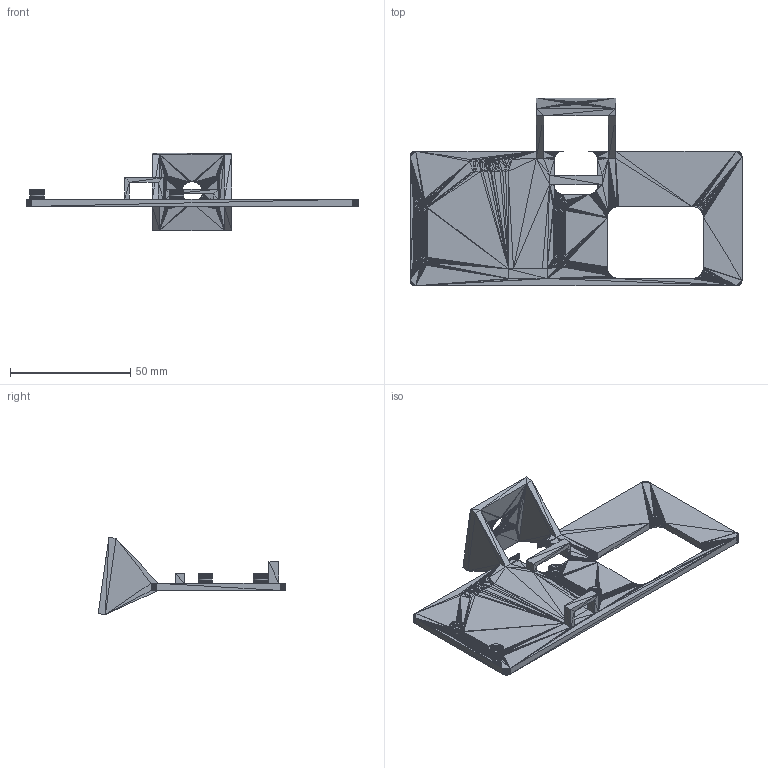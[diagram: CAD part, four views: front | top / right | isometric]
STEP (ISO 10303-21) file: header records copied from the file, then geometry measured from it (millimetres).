
FILE_DESCRIPTION(('BEAREE pi_tray - faceted solid, tessellated from the OpenSCAD model'),'2;1');
FILE_NAME('pi_tray.step','2026-08-05T18:55:26',('BEAREE'),(''),'tools/step_gen.js','OpenSCAD 2021.01','');
FILE_SCHEMA(('AUTOMOTIVE_DESIGN { 1 0 10303 214 1 1 1 1 }'));
Products named in the file (1): pi_tray
Bounding box: 138 x 78 x 32.11 mm (x, y, z)
Volume: 24520.5 mm3; surface area: 19214.1 mm2
Topology: 1 solids, 1 shells, 7568 faces, 11352 edges, 3776 vertices
Faces by surface type: plane 7568
Entity records: 128658 total; most frequent: DIRECTION 26490, ORIENTED_EDGE 22704, VECTOR 11352, LINE 11352, EDGE_CURVE 11352, AXIS2_PLACEMENT_3D 7569, EDGE_LOOP 7568, FACE_OUTER_BOUND 7568
